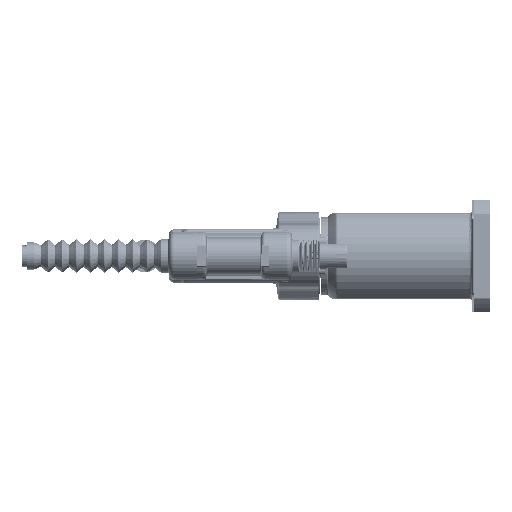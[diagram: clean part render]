
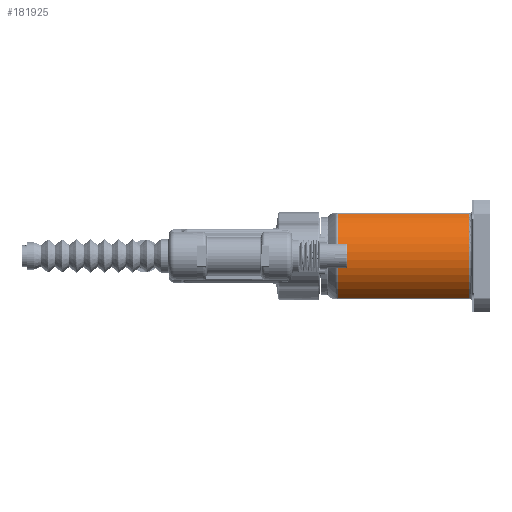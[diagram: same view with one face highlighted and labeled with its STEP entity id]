
A CAD part, left-side view. The second image highlights one B-rep face of the part: STEP entity #181925.
In plain terms, the highlighted cylindrical face has radius 67.5 mm (diameter 135 mm), a partial arc.
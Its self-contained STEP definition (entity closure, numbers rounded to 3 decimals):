
#1698 = CARTESIAN_POINT ( 'NONE',  ( 0., 30., 0. ) ) ;
#2739 = DIRECTION ( 'NONE',  ( 0., -1., 0. ) ) ;
#6958 = EDGE_CURVE ( 'NONE', #149383, #144220, #13351, .T. ) ;
#13351 = CIRCLE ( 'NONE', #164762, 67.5 ) ;
#20782 = CYLINDRICAL_SURFACE ( 'NONE', #180709, 67.5 ) ;
#28443 = VECTOR ( 'NONE', #2739, 1000. ) ;
#29812 = FACE_OUTER_BOUND ( 'NONE', #64806, .T. ) ;
#30539 = LINE ( 'NONE', #183341, #68523 ) ;
#30944 = CARTESIAN_POINT ( 'NONE',  ( -31.108, 230., -59.904 ) ) ;
#31145 = CARTESIAN_POINT ( 'NONE',  ( -31.108, 30., -59.904 ) ) ;
#48780 = ORIENTED_EDGE ( 'NONE', *, *, #6958, .T. ) ;
#55691 = CARTESIAN_POINT ( 'NONE',  ( -31.108, 30., 59.904 ) ) ;
#58028 = DIRECTION ( 'NONE',  ( 1., 0., 0. ) ) ;
#61550 = ORIENTED_EDGE ( 'NONE', *, *, #92974, .T. ) ;
#64806 = EDGE_LOOP ( 'NONE', ( #169860, #61550, #48780, #149163 ) ) ;
#65187 = VERTEX_POINT ( 'NONE', #75708 ) ;
#67937 = DIRECTION ( 'NONE',  ( 0., 1., 0. ) ) ;
#68143 = VERTEX_POINT ( 'NONE', #155449 ) ;
#68523 = VECTOR ( 'NONE', #67937, 1000. ) ;
#68561 = CARTESIAN_POINT ( 'NONE',  ( 0., 215.929, 0. ) ) ;
#70340 = DIRECTION ( 'NONE',  ( -1., 0., 0. ) ) ;
#71182 = DIRECTION ( 'NONE',  ( 0., 1., 0. ) ) ;
#75708 = CARTESIAN_POINT ( 'NONE',  ( -31.108, 215.929, -59.904 ) ) ;
#81426 = AXIS2_PLACEMENT_3D ( 'NONE', #68561, #125428, #136595 ) ;
#92974 = EDGE_CURVE ( 'NONE', #65187, #149383, #171387, .T. ) ;
#124755 = CARTESIAN_POINT ( 'NONE',  ( 0., 230., 0. ) ) ;
#125428 = DIRECTION ( 'NONE',  ( 0., -1., 0. ) ) ;
#128801 = CIRCLE ( 'NONE', #81426, 67.5 ) ;
#136595 = DIRECTION ( 'NONE',  ( -1., 0., 0. ) ) ;
#144220 = VERTEX_POINT ( 'NONE', #55691 ) ;
#149163 = ORIENTED_EDGE ( 'NONE', *, *, #160153, .T. ) ;
#149383 = VERTEX_POINT ( 'NONE', #31145 ) ;
#153998 = DIRECTION ( 'NONE',  ( 0., 1., 0. ) ) ;
#155449 = CARTESIAN_POINT ( 'NONE',  ( -31.108, 215.929, 59.904 ) ) ;
#160153 = EDGE_CURVE ( 'NONE', #144220, #68143, #30539, .T. ) ;
#164762 = AXIS2_PLACEMENT_3D ( 'NONE', #1698, #71182, #58028 ) ;
#169860 = ORIENTED_EDGE ( 'NONE', *, *, #174632, .T. ) ;
#171387 = LINE ( 'NONE', #30944, #28443 ) ;
#174632 = EDGE_CURVE ( 'NONE', #68143, #65187, #128801, .T. ) ;
#180709 = AXIS2_PLACEMENT_3D ( 'NONE', #124755, #153998, #70340 ) ;
#181925 = ADVANCED_FACE ( 'NONE', ( #29812 ), #20782, .T. ) ;
#183341 = CARTESIAN_POINT ( 'NONE',  ( -31.108, 230., 59.904 ) ) ;
